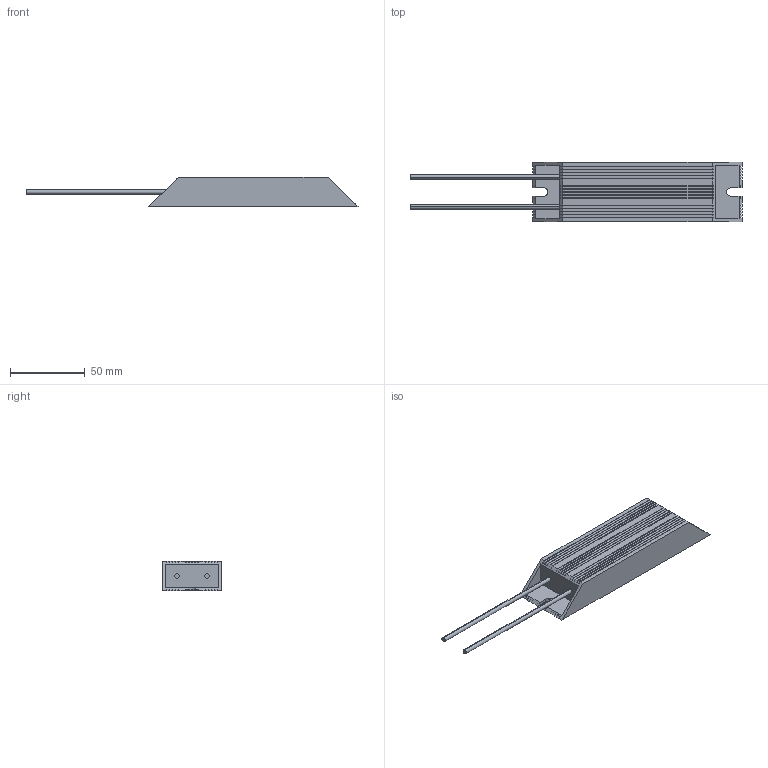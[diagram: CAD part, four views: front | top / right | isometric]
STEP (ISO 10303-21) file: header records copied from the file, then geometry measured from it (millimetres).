
FILE_DESCRIPTION (( 'STEP AP203' ), '1' );
FILE_NAME ('Ðåçèñòîð òîðìîçíîé _ IBRA-350-100-IP54.STEP', '2025-03-27T10:07:40', ( '' ), ( '' ), 'SwSTEP 2.0', 'SolidWorks 2021', '' );
FILE_SCHEMA (( 'CONFIG_CONTROL_DESIGN' ));
Length unit declared in the file: millimetre
Products named in the file (1): Ðåçèñòîð òîðìîçíîé _ IBRA-350-100-IP54
Bounding box: 222 x 40 x 20 mm (x, y, z)
Volume: 86366.2 mm3; surface area: 27463.5 mm2
Topology: 1 solids, 1 shells, 162 faces, 473 edges, 315 vertices
Faces by surface type: plane 110, cylinder 52
Entity records: 5389 total; most frequent: CARTESIAN_POINT 1253, ORIENTED_EDGE 946, DIRECTION 728, EDGE_CURVE 473, LINE 364, VECTOR 364, VERTEX_POINT 315, AXIS2_PLACEMENT_3D 182
